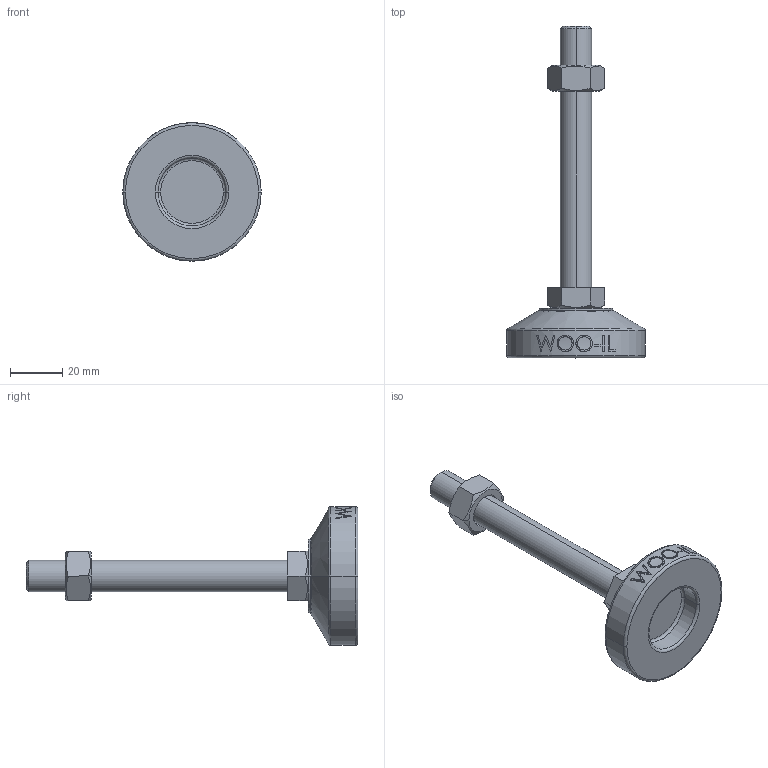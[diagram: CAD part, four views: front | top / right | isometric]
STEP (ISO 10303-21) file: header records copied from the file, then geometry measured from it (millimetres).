
FILE_DESCRIPTION (( 'STEP AP214' ), '1' );
FILE_NAME ('MFZ53-M12-100.step', '2021-01-15T07:03:34', ( '' ), ( '' ), 'SwSTEP 2.0', 'SolidWorks 2019', '' );
FILE_SCHEMA (( 'AUTOMOTIVE_DESIGN' ));
Length unit declared in the file: millimetre
Products named in the file (2): MFZ53-M12-100
Bounding box: 53 x 127 x 53 mm (x, y, z)
Volume: 45803.7 mm3; surface area: 13319.2 mm2
Topology: 3 solids, 3 shells, 106 faces, 243 edges, 154 vertices
Faces by surface type: plane 48, cylinder 18, bspline 16, cone 14, torus 10
Entity records: 4508 total; most frequent: CARTESIAN_POINT 2165, ORIENTED_EDGE 486, DIRECTION 439, EDGE_CURVE 243, AXIS2_PLACEMENT_3D 170, VERTEX_POINT 154, EDGE_LOOP 119, ADVANCED_FACE 106
